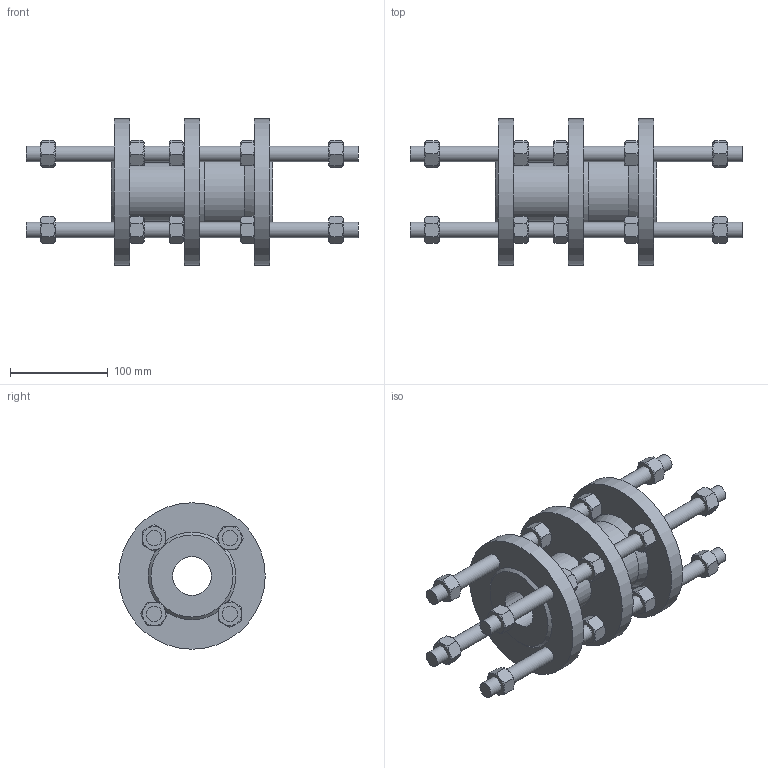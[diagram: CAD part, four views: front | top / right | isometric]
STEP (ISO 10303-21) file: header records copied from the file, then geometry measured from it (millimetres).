
FILE_DESCRIPTION (( 'STEP AP203' ), '1' );
FILE_NAME ('873004000741000.STEP', '2021-11-05T07:52:05', ( '' ), ( '' ), 'SwSTEP 2.0', 'SolidWorks 2020', '' );
FILE_SCHEMA (( 'CONFIG_CONTROL_DESIGN' ));
Length unit declared in the file: millimetre
Products named in the file (1): 873004000741000
Bounding box: 340 x 150 x 150 mm (x, y, z)
Volume: 1429426.6 mm3; surface area: 261789.9 mm2
Topology: 21 solids, 21 shells, 463 faces, 991 edges, 585 vertices
Faces by surface type: cone 243, plane 177, cylinder 43
Full cylindrical faces by diameter (mm): 14 x20, 16 x16, 40 x1, 60 x1, 75 x1, 91 x1, 150 x3
Entity records: 14457 total; most frequent: CARTESIAN_POINT 5326, ORIENTED_EDGE 1862, DIRECTION 1710, EDGE_CURVE 931, AXIS2_PLACEMENT_3D 795, EDGE_LOOP 582, VERTEX_POINT 571, FACE_OUTER_BOUND 506
